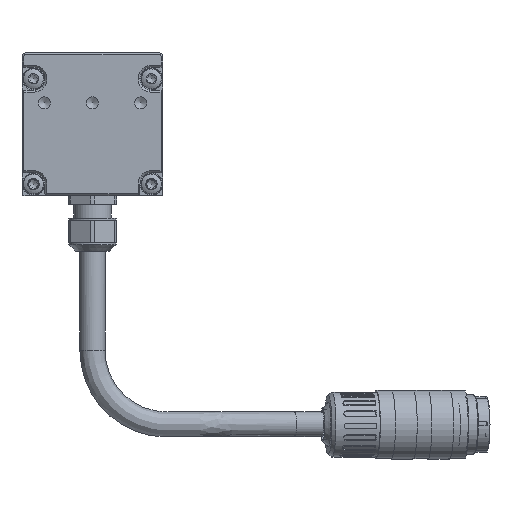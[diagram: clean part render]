
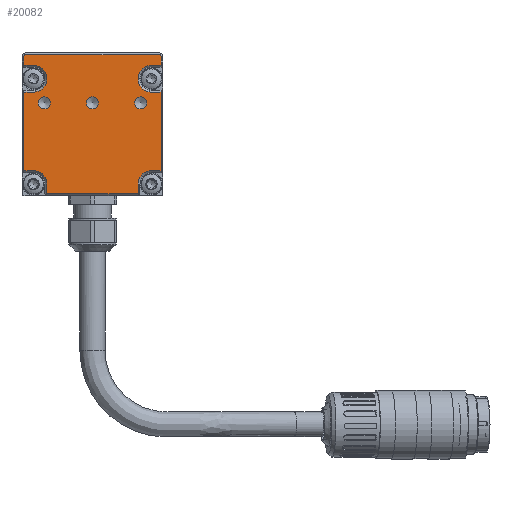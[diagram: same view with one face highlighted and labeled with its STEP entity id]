
A CAD part, left-side view. The second image highlights one B-rep face of the part: STEP entity #20082.
In plain terms, the highlighted planar face has unit normal (-1, 0, 0).
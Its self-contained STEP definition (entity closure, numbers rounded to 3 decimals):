
#880=LINE('',#27913,#1882);
#882=LINE('',#27917,#1884);
#886=LINE('',#27925,#1888);
#889=LINE('',#27931,#1891);
#891=LINE('',#27936,#1893);
#895=LINE('',#27944,#1897);
#897=LINE('',#27948,#1899);
#901=LINE('',#27957,#1903);
#903=LINE('',#27962,#1905);
#906=LINE('',#27970,#1908);
#909=LINE('',#27976,#1911);
#912=LINE('',#27984,#1914);
#916=LINE('',#27992,#1918);
#919=LINE('',#27999,#1921);
#1882=VECTOR('',#23214,1000.);
#1884=VECTOR('',#23218,1000.);
#1888=VECTOR('',#23224,1000.);
#1891=VECTOR('',#23229,1000.);
#1893=VECTOR('',#23235,1000.);
#1897=VECTOR('',#23241,1000.);
#1899=VECTOR('',#23247,1000.);
#1903=VECTOR('',#23257,1000.);
#1905=VECTOR('',#23265,1000.);
#1908=VECTOR('',#23274,1000.);
#1911=VECTOR('',#23283,1000.);
#1914=VECTOR('',#23292,1000.);
#1918=VECTOR('',#23302,1000.);
#1921=VECTOR('',#23311,1000.);
#2682=PLANE('',#21147);
#3923=ORIENTED_EDGE('',*,*,#7674,.T.);
#3924=ORIENTED_EDGE('',*,*,#7675,.T.);
#3925=ORIENTED_EDGE('',*,*,#7676,.T.);
#3926=ORIENTED_EDGE('',*,*,#7648,.T.);
#3927=ORIENTED_EDGE('',*,*,#7645,.T.);
#3928=ORIENTED_EDGE('',*,*,#7639,.T.);
#3929=ORIENTED_EDGE('',*,*,#7656,.T.);
#3930=ORIENTED_EDGE('',*,*,#7654,.T.);
#3931=ORIENTED_EDGE('',*,*,#7652,.T.);
#3932=ORIENTED_EDGE('',*,*,#7630,.T.);
#3933=ORIENTED_EDGE('',*,*,#7663,.T.);
#3934=ORIENTED_EDGE('',*,*,#7661,.T.);
#3935=ORIENTED_EDGE('',*,*,#7659,.T.);
#3936=ORIENTED_EDGE('',*,*,#7628,.T.);
#3937=ORIENTED_EDGE('',*,*,#7673,.F.);
#3938=ORIENTED_EDGE('',*,*,#7643,.T.);
#3939=ORIENTED_EDGE('',*,*,#7672,.F.);
#3940=ORIENTED_EDGE('',*,*,#7637,.T.);
#3941=ORIENTED_EDGE('',*,*,#7671,.T.);
#3942=ORIENTED_EDGE('',*,*,#7669,.T.);
#3943=ORIENTED_EDGE('',*,*,#7667,.T.);
#3944=ORIENTED_EDGE('',*,*,#7634,.T.);
#3945=ORIENTED_EDGE('',*,*,#7650,.T.);
#7628=EDGE_CURVE('',#9566,#9567,#880,.T.);
#7630=EDGE_CURVE('',#9569,#9568,#882,.T.);
#7634=EDGE_CURVE('',#9570,#9571,#886,.T.);
#7637=EDGE_CURVE('',#9572,#9573,#889,.T.);
#7639=EDGE_CURVE('',#9575,#9574,#891,.T.);
#7643=EDGE_CURVE('',#9576,#9577,#895,.T.);
#7645=EDGE_CURVE('',#9578,#9575,#897,.T.);
#7648=EDGE_CURVE('',#9579,#9578,#10697,.T.);
#7650=EDGE_CURVE('',#9571,#9579,#901,.T.);
#7652=EDGE_CURVE('',#9580,#9569,#903,.T.);
#7654=EDGE_CURVE('',#9581,#9580,#10698,.T.);
#7656=EDGE_CURVE('',#9574,#9581,#906,.T.);
#7659=EDGE_CURVE('',#9582,#9566,#909,.T.);
#7661=EDGE_CURVE('',#9583,#9582,#10699,.T.);
#7663=EDGE_CURVE('',#9568,#9583,#912,.T.);
#7667=EDGE_CURVE('',#9584,#9570,#916,.T.);
#7669=EDGE_CURVE('',#9585,#9584,#10700,.T.);
#7671=EDGE_CURVE('',#9573,#9585,#919,.T.);
#7672=EDGE_CURVE('',#9572,#9577,#10701,.T.);
#7673=EDGE_CURVE('',#9576,#9567,#10702,.T.);
#7674=EDGE_CURVE('',#9586,#9586,#10703,.T.);
#7675=EDGE_CURVE('',#9587,#9587,#10704,.T.);
#7676=EDGE_CURVE('',#9588,#9588,#10705,.T.);
#9566=VERTEX_POINT('',#27910);
#9567=VERTEX_POINT('',#27912);
#9568=VERTEX_POINT('',#27916);
#9569=VERTEX_POINT('',#27918);
#9570=VERTEX_POINT('',#27922);
#9571=VERTEX_POINT('',#27924);
#9572=VERTEX_POINT('',#27928);
#9573=VERTEX_POINT('',#27930);
#9574=VERTEX_POINT('',#27935);
#9575=VERTEX_POINT('',#27937);
#9576=VERTEX_POINT('',#27941);
#9577=VERTEX_POINT('',#27943);
#9578=VERTEX_POINT('',#27949);
#9579=VERTEX_POINT('',#27953);
#9580=VERTEX_POINT('',#27963);
#9581=VERTEX_POINT('',#27967);
#9582=VERTEX_POINT('',#27977);
#9583=VERTEX_POINT('',#27981);
#9584=VERTEX_POINT('',#27991);
#9585=VERTEX_POINT('',#27995);
#9586=VERTEX_POINT('',#28007);
#9587=VERTEX_POINT('',#28009);
#9588=VERTEX_POINT('',#28011);
#10697=CIRCLE('',#21122,3.6);
#10698=CIRCLE('',#21128,3.6);
#10699=CIRCLE('',#21134,3.6);
#10700=CIRCLE('',#21140,3.6);
#10701=CIRCLE('',#21144,0.5);
#10702=CIRCLE('',#21146,0.5);
#10703=CIRCLE('',#21148,1.621);
#10704=CIRCLE('',#21149,1.621);
#10705=CIRCLE('',#21150,1.621);
#11388=EDGE_LOOP('',(#3923));
#11389=EDGE_LOOP('',(#3924));
#11390=EDGE_LOOP('',(#3925));
#11391=EDGE_LOOP('',(#3926,#3927,#3928,#3929,#3930,#3931,#3932,#3933,#3934,
#3935,#3936,#3937,#3938,#3939,#3940,#3941,#3942,#3943,#3944,#3945));
#12478=FACE_BOUND('',#11388,.T.);
#12479=FACE_BOUND('',#11389,.T.);
#12480=FACE_BOUND('',#11390,.T.);
#12481=FACE_BOUND('',#11391,.T.);
#20082=ADVANCED_FACE('',(#12478,#12479,#12480,#12481),#2682,.F.);
#21122=AXIS2_PLACEMENT_3D('',#27954,#23252,#23253);
#21128=AXIS2_PLACEMENT_3D('',#27966,#23269,#23270);
#21134=AXIS2_PLACEMENT_3D('',#27980,#23287,#23288);
#21140=AXIS2_PLACEMENT_3D('',#27996,#23306,#23307);
#21144=AXIS2_PLACEMENT_3D('',#28002,#23316,#23317);
#21146=AXIS2_PLACEMENT_3D('',#28004,#23320,#23321);
#21147=AXIS2_PLACEMENT_3D('',#28005,#23322,#23323);
#21148=AXIS2_PLACEMENT_3D('',#28006,#23324,#23325);
#21149=AXIS2_PLACEMENT_3D('',#28008,#23326,#23327);
#21150=AXIS2_PLACEMENT_3D('',#28010,#23328,#23329);
#23214=DIRECTION('',(0.,0.,1.));
#23218=DIRECTION('',(0.,0.,1.));
#23224=DIRECTION('',(0.,0.,-1.));
#23229=DIRECTION('',(0.,0.,-1.));
#23235=DIRECTION('',(0.,-1.,0.));
#23241=DIRECTION('',(0.,1.,0.));
#23247=DIRECTION('',(0.,0.,-1.));
#23252=DIRECTION('',(1.,0.,0.));
#23253=DIRECTION('',(0.,1.,0.));
#23257=DIRECTION('',(0.,-1.,0.));
#23265=DIRECTION('',(0.,-1.,0.));
#23269=DIRECTION('',(1.,0.,0.));
#23270=DIRECTION('',(0.,1.,0.));
#23274=DIRECTION('',(0.,0.,1.));
#23283=DIRECTION('',(0.,-1.,0.));
#23287=DIRECTION('',(1.,0.,0.));
#23288=DIRECTION('',(0.,1.,0.));
#23292=DIRECTION('',(0.,1.,0.));
#23302=DIRECTION('',(0.,1.,0.));
#23306=DIRECTION('',(1.,0.,0.));
#23307=DIRECTION('',(0.,1.,0.));
#23311=DIRECTION('',(0.,-1.,0.));
#23316=DIRECTION('',(1.,0.,0.));
#23317=DIRECTION('',(0.,1.,0.));
#23320=DIRECTION('',(1.,0.,0.));
#23321=DIRECTION('',(0.,1.,0.));
#23322=DIRECTION('',(1.,0.,0.));
#23323=DIRECTION('',(0.,1.,0.));
#23324=DIRECTION('',(1.,0.,0.));
#23325=DIRECTION('',(0.,-1.,0.));
#23326=DIRECTION('',(1.,0.,0.));
#23327=DIRECTION('',(0.,-1.,0.));
#23328=DIRECTION('',(1.,0.,0.));
#23329=DIRECTION('',(0.,-1.,0.));
#27910=CARTESIAN_POINT('',(-714.998,-18.5,35.119));
#27912=CARTESIAN_POINT('',(-714.998,-18.5,37.519));
#27913=CARTESIAN_POINT('',(-714.998,-18.5,0.019));
#27916=CARTESIAN_POINT('',(-714.998,-18.5,27.919));
#27917=CARTESIAN_POINT('',(-714.998,-18.5,0.019));
#27918=CARTESIAN_POINT('',(-714.998,-18.5,6.719));
#27922=CARTESIAN_POINT('',(-714.998,18.5,27.919));
#27924=CARTESIAN_POINT('',(-714.998,18.5,6.719));
#27925=CARTESIAN_POINT('',(-714.998,18.5,0.019));
#27928=CARTESIAN_POINT('',(-714.998,18.5,37.519));
#27930=CARTESIAN_POINT('',(-714.998,18.5,35.119));
#27931=CARTESIAN_POINT('',(-714.998,18.5,0.019));
#27935=CARTESIAN_POINT('',(-714.998,-12.3,0.519));
#27936=CARTESIAN_POINT('',(-714.998,-12.3,0.519));
#27937=CARTESIAN_POINT('',(-714.998,12.3,0.519));
#27941=CARTESIAN_POINT('',(-714.998,-18.,38.019));
#27943=CARTESIAN_POINT('',(-714.998,18.,38.019));
#27944=CARTESIAN_POINT('',(-714.998,-19.,38.019));
#27948=CARTESIAN_POINT('',(-714.998,12.3,0.019));
#27949=CARTESIAN_POINT('',(-714.998,12.3,3.119));
#27953=CARTESIAN_POINT('',(-714.998,15.9,6.719));
#27954=CARTESIAN_POINT('',(-714.998,15.9,3.119));
#27957=CARTESIAN_POINT('',(-714.998,-19.,6.719));
#27962=CARTESIAN_POINT('',(-714.998,-19.,6.719));
#27963=CARTESIAN_POINT('',(-714.998,-15.9,6.719));
#27966=CARTESIAN_POINT('',(-714.998,-15.9,3.119));
#27967=CARTESIAN_POINT('',(-714.998,-12.3,3.119));
#27970=CARTESIAN_POINT('',(-714.998,-12.3,0.019));
#27976=CARTESIAN_POINT('',(-714.998,-19.,35.119));
#27977=CARTESIAN_POINT('',(-714.998,-15.9,35.119));
#27980=CARTESIAN_POINT('',(-714.998,-15.9,31.519));
#27981=CARTESIAN_POINT('',(-714.998,-15.9,27.919));
#27984=CARTESIAN_POINT('',(-714.998,-19.,27.919));
#27991=CARTESIAN_POINT('',(-714.998,15.9,27.919));
#27992=CARTESIAN_POINT('',(-714.998,-19.,27.919));
#27995=CARTESIAN_POINT('',(-714.998,15.9,35.119));
#27996=CARTESIAN_POINT('',(-714.998,15.9,31.519));
#27999=CARTESIAN_POINT('',(-714.998,-19.,35.119));
#28002=CARTESIAN_POINT('',(-714.998,18.,37.519));
#28004=CARTESIAN_POINT('',(-714.998,-18.,37.519));
#28005=CARTESIAN_POINT('',(-714.998,-19.,0.019));
#28006=CARTESIAN_POINT('',(-714.998,13.,25.019));
#28007=CARTESIAN_POINT('',(-714.998,11.379,25.019));
#28008=CARTESIAN_POINT('',(-714.998,0.,25.019));
#28009=CARTESIAN_POINT('',(-714.998,-1.621,25.019));
#28010=CARTESIAN_POINT('',(-714.998,-13.,25.019));
#28011=CARTESIAN_POINT('',(-714.998,-14.621,25.019));
